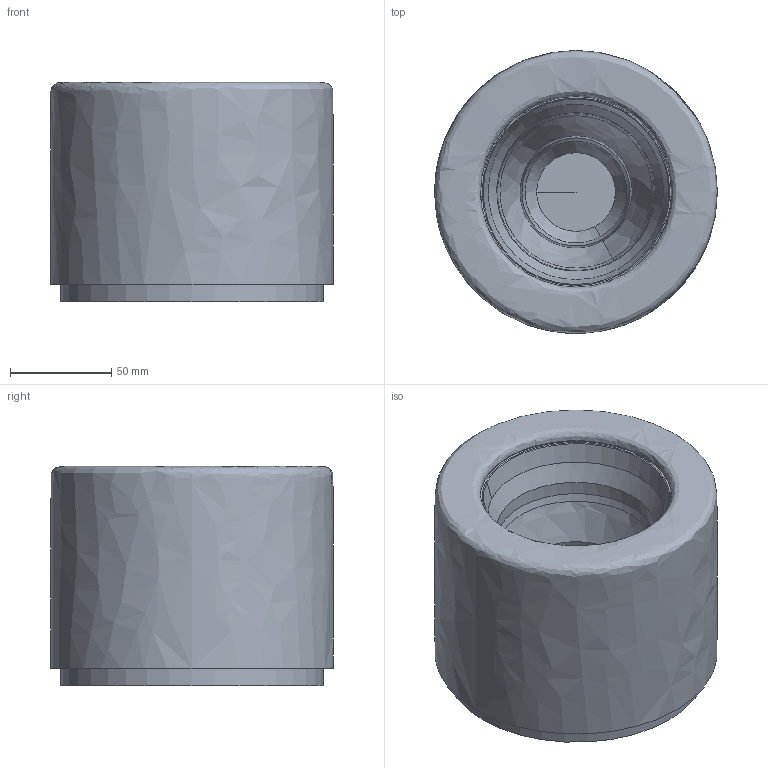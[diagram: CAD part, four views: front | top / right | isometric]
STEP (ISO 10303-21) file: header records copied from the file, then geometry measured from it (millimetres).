
FILE_DESCRIPTION(/* description */ (''),/* implementation_level */ '2;1');
FILE_NAME(/* name */ 'C:/Users/elena/OneDrive/Allegati di posta elettronica/Desktop/Iride Ceiling Medium.step',/* time_stamp */ '2020-05-12T16:21:36+02:00',/* author */ (''),/* organization */ (''),/* preprocessor_version */ 'ST-DEVELOPER v18.1',/* originating_system */ 'Autodesk Translation Framework v9.2.0.1227',/* authorisation */ '');
FILE_SCHEMA (('AUTOMOTIVE_DESIGN { 1 0 10303 214 3 1 1 }'));
Length unit declared in the file: millimetre
Products named in the file (1): (Unsaved)
Bounding box: 140 x 140 x 108.46 mm (x, y, z)
Volume: 498928.6 mm3; surface area: 180732.2 mm2
Topology: 2 solids, 2 shells, 163 faces, 452 edges, 302 vertices
Faces by surface type: plane 85, bspline 39, cone 23, cylinder 11, torus 5
Full cylindrical faces by diameter (mm): 3 x6, 86 x1, 111.2 x1, 130 x2, 135 x1
Entity records: 7860 total; most frequent: CARTESIAN_POINT 3770, ORIENTED_EDGE 912, DIRECTION 764, EDGE_CURVE 456, VERTEX_POINT 303, AXIS2_PLACEMENT_3D 300, EDGE_LOOP 188, CIRCLE 175
